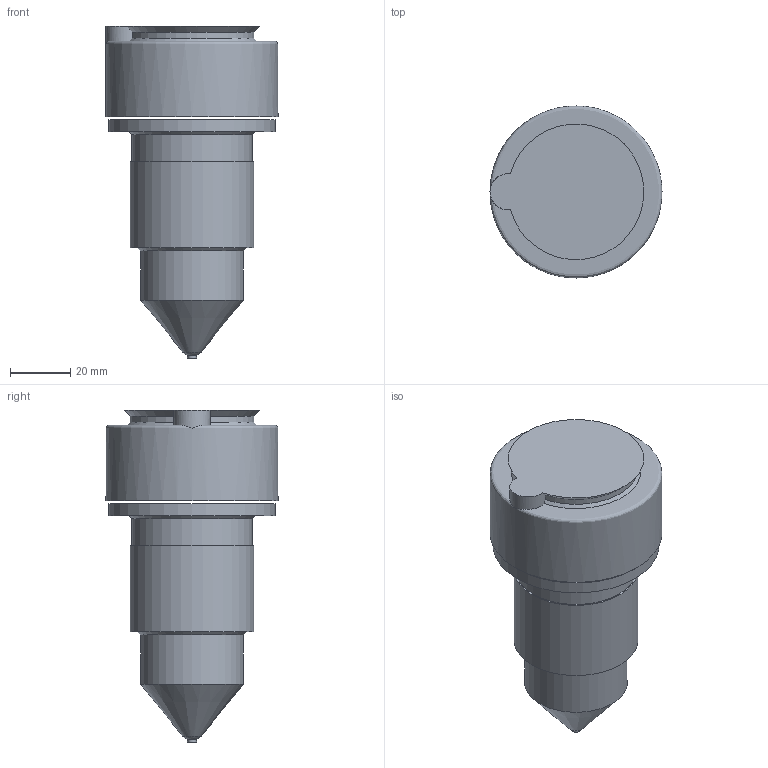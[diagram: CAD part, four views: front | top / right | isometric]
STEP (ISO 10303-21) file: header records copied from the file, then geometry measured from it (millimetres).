
FILE_DESCRIPTION(('STEP AP214'),'1');
FILE_NAME('SEDE IPS1000-A.stp','2018-06-13T12:14:39',(' '),(' '),'Spatial InterOp 3D',' ',' ');
FILE_SCHEMA(('AUTOMOTIVE_DESIGN { 1 0 10303 214 1 1 1 1 }'));
Length unit declared in the file: millimetre
Products named in the file (1): 1
Bounding box: 57 x 57 x 110 mm (x, y, z)
Volume: 152995.1 mm3; surface area: 23252.9 mm2
Topology: 2 solids, 2 shells, 21 faces, 38 edges, 24 vertices
Faces by surface type: cylinder 7, plane 7, cone 5, revolution 2
Full cylindrical faces by diameter (mm): 3 x1, 34 x1, 40 x1, 41 x1, 55 x1
Entity records: 719 total; most frequent: CARTESIAN_POINT 157, DIRECTION 84, ORIENTED_EDGE 54, AXIS2_PLACEMENT_3D 40, EDGE_LOOP 34, FACE_OUTER_BOUND 28, EDGE_CURVE 27, VERTEX_POINT 23
